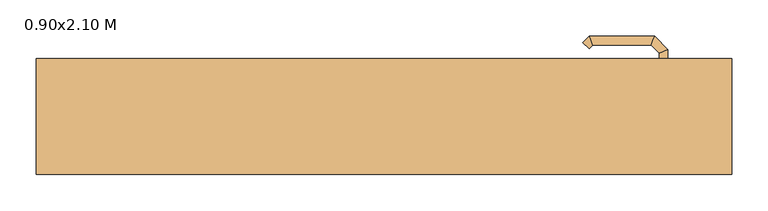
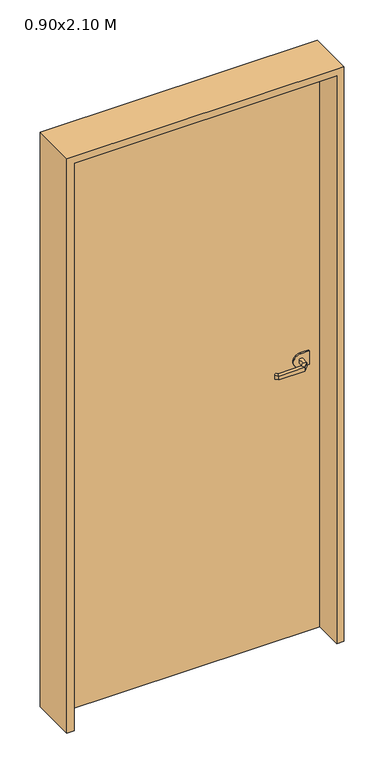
"""IFC4 building model written with IfcOpenShell, lengths in millimetres: door geometry, PUERTA DE  MADERA-CEDRO : 0.90x2.10 M."""

from ifc_helpers import new_model, si_unit, point, frame, frame_2d, origin, origin_with_axes, place, context, project, spatial, polyline, circle_curve, ellipse_curve, trimmed, segment, composite_curve, outline, extrude, faceted_brep, source, transform, mapped, element, save
from ifc_brep_helpers import plane_surface, cylinder_surface, advanced_brep


def door_0_90x2_10_m_c8e1bc58(model_context):
    return source(origin(), model_context, "Body", "SolidModel", [
        extrude(outline(composite_curve([segment(polyline([(975.0, 415.9), (1025.0, 415.9), (1025.0, 385.9)]), True, "CONTINUOUS"), segment(trimmed(circle_curve(frame_2d((1000.0, 385.9)), 25.0), [point((1025.0, 385.9))], [point((975.0, 385.9))], False, "CARTESIAN"), True, "CONTINUOUS"), segment(polyline([(975.0, 385.9), (975.0, 415.9)]), True, "CONTINUOUS")], self_intersect=False)), frame((0.0, 16.9, 0.0), z_axis=(0.0, 1.0, 0.0), x_axis=(0.0, 0.0, 1.0)), (0.0, 0.0, 1.0), 5.0),
        advanced_brep(
        [(379.9, 16.9, 993.0), (379.9, 16.9, 1007.0), (391.9, 16.9, 1007.0), (391.9, 16.9, 993.0), (379.9, -5.5852045, 993.0), (379.9, -5.5852045, 1007.0), (391.9, -10.5557673, 1007.0), (391.9, -10.5557673, 993.0), (368.4147186, -17.0704859, 993.0), (368.4147186, -17.0704859, 1007.0), (373.3852814, -29.0704859, 1007.0), (373.3852814, -29.0704859, 993.0), (288.3394977, -17.0704859, 993.0), (288.3394977, -17.0704859, 1007.0), (283.368935, -29.0704859, 1007.0), (283.368935, -29.0704859, 993.0), (283.0257892, -11.7567774, 993.0), (274.5405078, -20.2420588, 993.0), (274.5405078, -20.2420588, 1007.0), (283.0257892, -11.7567774, 1007.0)],
        [
            (0, 1),
            (1, 2, circle_curve(frame((385.9, 16.9, 986.9542278), z_axis=(0.0, 1.0, 0.0), x_axis=(1.0, 0.0, 0.0)), 20.9244589)),
            (2, 3),
            (3, 0, circle_curve(frame((385.9, 16.9, 1013.0457722), z_axis=(0.0, 1.0, 0.0), x_axis=(1.0, 0.0, 0.0)), 20.9244589)),
            (0, 4),
            (4, 5),
            (5, 1),
            (5, 6, ellipse_curve(frame((385.9, -8.0704859, 986.9542278), z_axis=(0.38268343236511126, 0.9238795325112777, 0.0), x_axis=(-0.9238795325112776, 0.3826834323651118, 0.0)), 22.6484711, 20.9244589)),
            (6, 2),
            (6, 7),
            (7, 3),
            (7, 4, ellipse_curve(frame((385.9, -8.0704859, 1013.0457722), z_axis=(0.38268343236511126, 0.9238795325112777, 0.0), x_axis=(-0.9238795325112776, 0.3826834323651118, 0.0)), 22.6484711, 20.9244589)),
            (4, 8),
            (8, 9),
            (9, 5),
            (9, 10, ellipse_curve(frame((370.9, -23.0704859, 986.9542278), z_axis=(0.9238795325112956, 0.3826834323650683, 0.0), x_axis=(-0.38268343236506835, 0.9238795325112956, 0.0)), 22.6484711, 20.9244589)),
            (10, 6),
            (10, 11),
            (11, 7),
            (11, 8, ellipse_curve(frame((370.9, -23.0704859, 1013.0457722), z_axis=(0.9238795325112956, 0.3826834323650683, 0.0), x_axis=(-0.38268343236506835, 0.9238795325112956, 0.0)), 22.6484711, 20.9244589)),
            (8, 12),
            (12, 13),
            (13, 9),
            (13, 14, ellipse_curve(frame((285.8542163, -23.0704859, 986.9542278), z_axis=(0.9238795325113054, -0.3826834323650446, 0.0), x_axis=(0.3826834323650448, 0.9238795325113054, 0.0)), 22.6484711, 20.9244589)),
            (14, 10),
            (14, 15),
            (15, 11),
            (15, 12, ellipse_curve(frame((285.8542163, -23.0704859, 1013.0457722), z_axis=(0.9238795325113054, -0.3826834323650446, 0.0), x_axis=(0.3826834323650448, 0.9238795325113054, 0.0)), 22.6484711, 20.9244589)),
            (16, 17, circle_curve(frame((278.7831485, -15.9994181, 1013.0457722), z_axis=(-0.707106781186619, 0.7071067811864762, 0.0), x_axis=(-0.7071067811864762, -0.707106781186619, 0.0)), 20.9244589)),
            (17, 18),
            (18, 19, circle_curve(frame((278.7831485, -15.9994181, 986.9542278), z_axis=(-0.707106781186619, 0.7071067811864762, 0.0), x_axis=(-0.7071067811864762, -0.707106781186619, 0.0)), 20.9244589)),
            (19, 16),
            (12, 16),
            (19, 13),
            (18, 14),
            (17, 15),
        ],
        [
            plane_surface(frame((395.1195445, 16.9, 1000.0), z_axis=(0.0, 1.0, 0.0), x_axis=(0.0, 0.0, 1.0))),
            plane_surface(frame((379.9, 16.9, 993.0), z_axis=(-1.0, 0.0, 0.0), x_axis=(0.0, -1.0, 0.0))),
            cylinder_surface(frame((385.9, 16.9, 986.9542278), z_axis=(0.0, 1.0, 0.0), x_axis=(1.0, 0.0, 0.0)), 20.9244589),
            plane_surface(frame((391.9, 16.9, 1007.0), z_axis=(1.0, 0.0, 0.0), x_axis=(0.0, -1.0, 0.0))),
            cylinder_surface(frame((385.9, 16.9, 1013.0457722), z_axis=(0.0, 1.0, 0.0), x_axis=(1.0, 0.0, 0.0)), 20.9244589),
            plane_surface(frame((379.9, -5.5852045, 993.0), z_axis=(-0.7071067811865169, 0.7071067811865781, 0.0), x_axis=(-0.7071067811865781, -0.7071067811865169, 0.0))),
            cylinder_surface(frame((385.9, -8.0704859, 986.9542278), z_axis=(0.7071067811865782, 0.7071067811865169, 0.0), x_axis=(0.7071067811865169, -0.7071067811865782, 0.0)), 20.9244589),
            plane_surface(frame((391.9, -10.5557673, 1007.0), z_axis=(0.7071067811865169, -0.7071067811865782, 0.0), x_axis=(-0.7071067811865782, -0.7071067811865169, 0.0))),
            cylinder_surface(frame((385.9, -8.0704859, 1013.0457722), z_axis=(0.7071067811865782, 0.7071067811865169, 0.0), x_axis=(0.7071067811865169, -0.7071067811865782, 0.0)), 20.9244589),
            plane_surface(frame((368.4147186, -17.0704859, 993.0), z_axis=(0.0, 1.0, 0.0), x_axis=(-1.0, 0.0, 0.0))),
            cylinder_surface(frame((370.9, -23.0704859, 986.9542278), z_axis=(1.0, 0.0, 0.0), x_axis=(0.0, -1.0, 0.0)), 20.9244589),
            plane_surface(frame((373.3852814, -29.0704859, 1007.0), z_axis=(0.0, -1.0, 0.0), x_axis=(-1.0, 0.0, 0.0))),
            cylinder_surface(frame((370.9, -23.0704859, 1013.0457722), z_axis=(1.0, 0.0, 0.0), x_axis=(0.0, -1.0, 0.0)), 20.9244589),
            plane_surface(frame((278.7831485, -15.9994181, 990.7804555), z_axis=(-0.707106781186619, 0.7071067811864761, 0.0), x_axis=(-0.7071067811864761, -0.707106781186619, 0.0))),
            plane_surface(frame((288.3394977, -17.0704859, 993.0), z_axis=(0.7071067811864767, 0.7071067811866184, 0.0), x_axis=(-0.7071067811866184, 0.7071067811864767, 0.0))),
            cylinder_surface(frame((285.8542163, -23.0704859, 986.9542278), z_axis=(0.707106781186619, -0.7071067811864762, 0.0), x_axis=(-0.7071067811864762, -0.707106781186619, 0.0)), 20.9244589),
            plane_surface(frame((283.368935, -29.0704859, 1007.0), z_axis=(-0.7071067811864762, -0.7071067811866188, 0.0), x_axis=(-0.7071067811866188, 0.7071067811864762, 0.0))),
            cylinder_surface(frame((285.8542163, -23.0704859, 1013.0457722), z_axis=(0.707106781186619, -0.7071067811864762, 0.0), x_axis=(-0.7071067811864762, -0.707106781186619, 0.0)), 20.9244589),
        ],
        [
            (0, [[1, 2, 3, 4]]),
            (1, [[-1, 5, 6, 7]]),
            (2, [[-2, -7, 8, 9]]),
            (3, [[-3, -9, 10, 11]]),
            (4, [[-4, -11, 12, -5]]),
            (5, [[-6, 13, 14, 15]]),
            (6, [[-8, -15, 16, 17]]),
            (7, [[-10, -17, 18, 19]]),
            (8, [[-12, -19, 20, -13]]),
            (9, [[-14, 21, 22, 23]]),
            (10, [[-16, -23, 24, 25]]),
            (11, [[-18, -25, 26, 27]]),
            (12, [[-20, -27, 28, -21]]),
            (13, [[29, 30, 31, 32]]),
            (14, [[-22, 33, -32, 34]]),
            (15, [[-24, -34, -31, 35]]),
            (16, [[-26, -35, -30, 36]]),
            (17, [[-28, -36, -29, -33]]),
        ],
    ),
        advanced_brep(
        [(391.9, 65.0, 1007.0), (379.9, 65.0, 1007.0), (379.9, 65.0, 993.0), (391.9, 65.0, 993.0), (391.9, 92.6509507, 1007.0), (379.9, 87.680388, 1007.0), (379.9, 87.680388, 993.0), (391.9, 92.6509507, 993.0), (373.52279, 111.0281607, 1007.0), (368.5522273, 99.0281607, 1007.0), (368.5522273, 99.0281607, 993.0), (373.52279, 111.0281607, 993.0), (283.396078, 111.0281607, 1007.0), (288.3666408, 99.0281607, 1007.0), (288.3666408, 99.0281607, 993.0), (283.396078, 111.0281607, 993.0), (274.5676509, 102.1997336, 1007.0), (274.5676509, 102.1997336, 993.0), (283.0529323, 93.7144522, 993.0), (283.0529323, 93.7144522, 1007.0)],
        [
            (0, 1, circle_curve(frame((385.9, 65.0, 986.9542278), z_axis=(0.0, -1.0, 0.0), x_axis=(-1.0, 0.0, 0.0)), 20.9244589)),
            (1, 2),
            (2, 3, circle_curve(frame((385.9, 65.0, 1013.0457722), z_axis=(0.0, -1.0, 0.0), x_axis=(-1.0, 0.0, 0.0)), 20.9244589)),
            (3, 0),
            (0, 4),
            (4, 5, ellipse_curve(frame((385.9, 90.1656693, 986.9542278), z_axis=(0.3826834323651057, -0.9238795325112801, 0.0), x_axis=(-0.9238795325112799, -0.38268343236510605, 0.0)), 22.6484711, 20.9244589)),
            (5, 1),
            (5, 6),
            (6, 2),
            (6, 7, ellipse_curve(frame((385.9, 90.1656693, 1013.0457722), z_axis=(0.3826834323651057, -0.9238795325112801, 0.0), x_axis=(-0.9238795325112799, -0.38268343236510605, 0.0)), 22.6484711, 20.9244589)),
            (7, 3),
            (7, 4),
            (4, 8),
            (8, 9, ellipse_curve(frame((371.0375086, 105.0281607, 986.9542278), z_axis=(0.9238795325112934, -0.3826834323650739, 0.0), x_axis=(-0.3826834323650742, -0.9238795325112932, 0.0)), 22.6484711, 20.9244589)),
            (9, 5),
            (9, 10),
            (10, 6),
            (10, 11, ellipse_curve(frame((371.0375086, 105.0281607, 1013.0457722), z_axis=(0.9238795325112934, -0.3826834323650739, 0.0), x_axis=(-0.3826834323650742, -0.9238795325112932, 0.0)), 22.6484711, 20.9244589)),
            (11, 7),
            (11, 8),
            (8, 12),
            (12, 13, ellipse_curve(frame((285.8813594, 105.0281607, 986.9542278), z_axis=(0.9238795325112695, 0.3826834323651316, 0.0), x_axis=(0.38268343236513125, -0.9238795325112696, 0.0)), 22.6484711, 20.9244589)),
            (13, 9),
            (13, 14),
            (14, 10),
            (14, 15, ellipse_curve(frame((285.8813594, 105.0281607, 1013.0457722), z_axis=(0.9238795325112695, 0.3826834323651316, 0.0), x_axis=(0.38268343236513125, -0.9238795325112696, 0.0)), 22.6484711, 20.9244589)),
            (15, 11),
            (15, 12),
            (16, 17),
            (17, 18, circle_curve(frame((278.8102916, 97.9570929, 1013.0457722), z_axis=(-0.7071067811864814, -0.7071067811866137, 0.0), x_axis=(0.7071067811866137, -0.7071067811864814, 0.0)), 20.9244589)),
            (18, 19),
            (19, 16, circle_curve(frame((278.8102916, 97.9570929, 986.9542278), z_axis=(-0.7071067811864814, -0.7071067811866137, 0.0), x_axis=(0.7071067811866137, -0.7071067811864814, 0.0)), 20.9244589)),
            (12, 16),
            (19, 13),
            (18, 14),
            (17, 15),
        ],
        [
            plane_surface(frame((395.1195445, 65.0, 1000.0), z_axis=(0.0, -1.0, 0.0), x_axis=(0.0, 0.0, -1.0))),
            cylinder_surface(frame((385.9, 65.0, 986.9542278), z_axis=(0.0, -1.0, 0.0), x_axis=(-1.0, 0.0, 0.0)), 20.9244589),
            plane_surface(frame((379.9, 65.0, 1007.0), z_axis=(-1.0, 0.0, 0.0), x_axis=(0.0, 1.0, 0.0))),
            cylinder_surface(frame((385.9, 65.0, 1013.0457722), z_axis=(0.0, -1.0, 0.0), x_axis=(-1.0, 0.0, 0.0)), 20.9244589),
            plane_surface(frame((391.9, 65.0, 993.0), z_axis=(1.0, 0.0, 0.0), x_axis=(0.0, 1.0, 0.0))),
            cylinder_surface(frame((385.9, 90.1656693, 986.9542278), z_axis=(0.7071067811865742, -0.7071067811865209, 0.0), x_axis=(-0.7071067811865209, -0.7071067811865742, 0.0)), 20.9244589),
            plane_surface(frame((379.9, 87.680388, 1007.0), z_axis=(-0.7071067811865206, -0.7071067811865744, 0.0), x_axis=(-0.7071067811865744, 0.7071067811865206, 0.0))),
            cylinder_surface(frame((385.9, 90.1656693, 1013.0457722), z_axis=(0.7071067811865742, -0.7071067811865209, 0.0), x_axis=(-0.7071067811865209, -0.7071067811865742, 0.0)), 20.9244589),
            plane_surface(frame((391.9, 92.6509507, 993.0), z_axis=(0.707106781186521, 0.7071067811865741, 0.0), x_axis=(-0.7071067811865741, 0.707106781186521, 0.0))),
            cylinder_surface(frame((371.0375086, 105.0281607, 986.9542278), z_axis=(1.0, 0.0, 0.0), x_axis=(0.0, -1.0, 0.0)), 20.9244589),
            plane_surface(frame((368.5522273, 99.0281607, 1007.0), z_axis=(0.0, -1.0, 0.0), x_axis=(-1.0, 0.0, 0.0))),
            cylinder_surface(frame((371.0375086, 105.0281607, 1013.0457722), z_axis=(1.0, 0.0, 0.0), x_axis=(0.0, -1.0, 0.0)), 20.9244589),
            plane_surface(frame((373.52279, 111.0281607, 993.0), z_axis=(0.0, 1.0, 0.0), x_axis=(-1.0, 0.0, 0.0))),
            plane_surface(frame((278.8102916, 97.9570929, 1009.2195445), z_axis=(-0.7071067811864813, -0.7071067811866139, 0.0), x_axis=(-0.7071067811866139, 0.7071067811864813, 0.0))),
            cylinder_surface(frame((285.8813594, 105.0281607, 986.9542278), z_axis=(0.7071067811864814, 0.7071067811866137, 0.0), x_axis=(0.7071067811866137, -0.7071067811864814, 0.0)), 20.9244589),
            plane_surface(frame((288.3666408, 99.0281607, 1007.0), z_axis=(0.7071067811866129, -0.7071067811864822, 0.0), x_axis=(-0.7071067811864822, -0.7071067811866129, 0.0))),
            cylinder_surface(frame((285.8813594, 105.0281607, 1013.0457722), z_axis=(0.7071067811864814, 0.7071067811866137, 0.0), x_axis=(0.7071067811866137, -0.7071067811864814, 0.0)), 20.9244589),
            plane_surface(frame((283.396078, 111.0281607, 993.0), z_axis=(-0.7071067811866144, 0.7071067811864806, 0.0), x_axis=(-0.7071067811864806, -0.7071067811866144, 0.0))),
        ],
        [
            (0, [[1, 2, 3, 4]]),
            (1, [[-1, 5, 6, 7]]),
            (2, [[-2, -7, 8, 9]]),
            (3, [[-3, -9, 10, 11]]),
            (4, [[-4, -11, 12, -5]]),
            (5, [[-6, 13, 14, 15]]),
            (6, [[-8, -15, 16, 17]]),
            (7, [[-10, -17, 18, 19]]),
            (8, [[-12, -19, 20, -13]]),
            (9, [[-14, 21, 22, 23]]),
            (10, [[-16, -23, 24, 25]]),
            (11, [[-18, -25, 26, 27]]),
            (12, [[-20, -27, 28, -21]]),
            (13, [[29, 30, 31, 32]]),
            (14, [[-22, 33, -32, 34]]),
            (15, [[-24, -34, -31, 35]]),
            (16, [[-26, -35, -30, 36]]),
            (17, [[-28, -36, -29, -33]]),
        ],
    ),
        extrude(outline(composite_curve([segment(polyline([(975.0, 415.9), (1025.0, 415.9), (1025.0, 385.9)]), True, "CONTINUOUS"), segment(trimmed(circle_curve(frame_2d((1000.0, 385.9)), 25.0), [point((1025.0, 385.9))], [point((975.0, 385.9))], False, "CARTESIAN"), True, "CONTINUOUS"), segment(polyline([(975.0, 385.9), (975.0, 415.9)]), True, "CONTINUOUS")], self_intersect=False)), frame((0.0, 60.0, 0.0), z_axis=(0.0, 1.0, 0.0), x_axis=(0.0, 0.0, 1.0)), (0.0, 0.0, 1.0), 5.0),
        faceted_brep([(-480.0, -80.0, 0.0), (-480.0, 80.0, 0.0), (-441.9, 80.0, 0.0), (-441.9, 60.0, 0.0), (-454.6, 60.0, 0.0), (-454.6, -80.0, 0.0), (-480.0, -80.0, 2100.0), (-480.0, 80.0, 2100.0), (480.0, 80.0, 2100.0), (480.0, 80.0, 0.0), (441.9, 80.0, 0.0), (441.9, 80.0, 2061.9), (-441.9, 80.0, 2061.9), (-441.9, 60.0, 2061.9), (441.9, 60.0, 2061.9), (441.9, 60.0, 0.0), (454.6, 60.0, 0.0), (454.6, 60.0, 2074.6), (-454.6, 60.0, 2074.6), (-454.6, -80.0, 2074.6), (454.6, -80.0, 2074.6), (454.6, -80.0, 0.0), (480.0, -80.0, 0.0), (480.0, -80.0, 2100.0)], [[[0, 1, 2, 3, 4, 5]], [[1, 0, 6, 7]], [[2, 1, 7, 8, 9, 10, 11, 12]], [[3, 2, 12, 13]], [[4, 3, 13, 14, 15, 16, 17, 18]], [[5, 4, 18, 19]], [[0, 5, 19, 20, 21, 22, 23, 6]], [[8, 23, 22, 9]], [[22, 21, 16, 15, 10, 9]], [[14, 11, 10, 15]], [[20, 17, 16, 21]], [[7, 6, 23, 8]], [[13, 12, 11, 14]], [[19, 18, 17, 20]]]),
        extrude(outline(polyline([(-454.6, 60.0), (454.6, 60.0), (454.6, 21.9), (-454.6, 21.9), (-454.6, 60.0)])), origin_with_axes(), (0.0, 0.0, 1.0), 2074.6),
    ])


if __name__ == "__main__":
    model = new_model("IFC4")
    model_context = context("Model", 3, world=origin())
    ifc_project = project(units=[si_unit("LENGTHUNIT", "METRE", prefix="MILLI")], contexts=[model_context])
    site = spatial("IfcSite", under=ifc_project)
    building = spatial("IfcBuilding", under=site)
    placement = place(None, origin())
    door_0_90x2_10_m_shape = door_0_90x2_10_m_c8e1bc58(model_context)
    element("IfcDoor", 1, ObjectType="PUERTA DE  MADERA-CEDRO : 0.90x2.10 M", at=placement, inside=building, context=model_context, shape_type="MappedRepresentation", body=[
        mapped(door_0_90x2_10_m_shape, transform((0.0, 0.0, 0.0), x_axis=(1.0, 0.0, 0.0), y_axis=(0.0, 1.0, 0.0), z_axis=(0.0, 0.0, 1.0))),
    ])
    save(model, "model.ifc")
